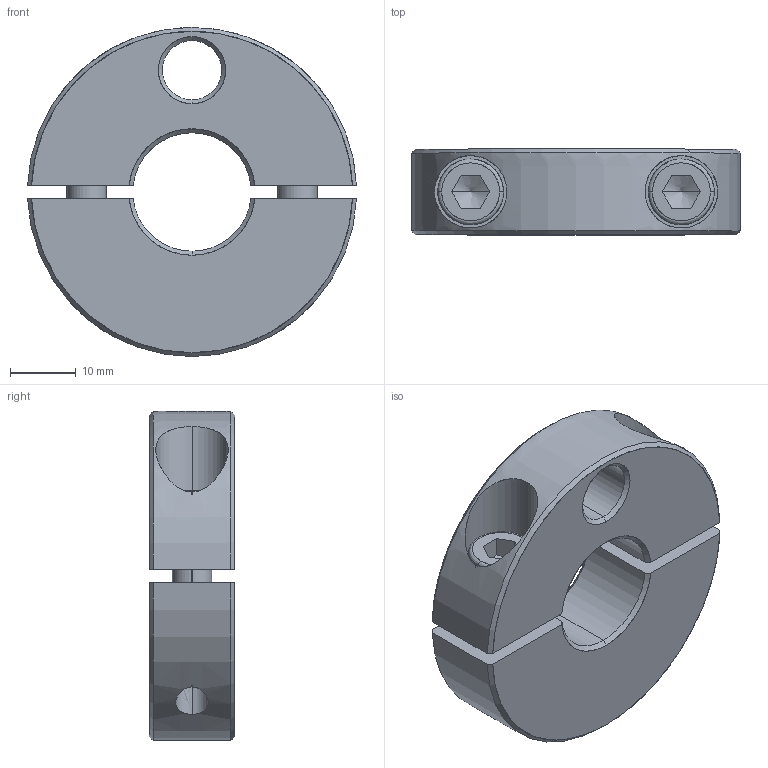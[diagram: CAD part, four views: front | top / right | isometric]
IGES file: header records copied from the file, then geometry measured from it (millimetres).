
Start section: SolidWorks IGES FILE using analytic representation for surfaces
Global section: file name: C:\WIX2\Positioning\3865\3865W118.igs; native system: SolidWorks 2003 by SolidWorks Corporation; preprocessor: Version 5.3; author: Joan; date: 030722.172958; units: millimetre
Bounding box: 49.96 x 13 x 50 mm (x, y, z)
Surface area: 9738.8 mm2 (no closed solid volume)
Topology: 0 solids, 0 shells, 99 faces, 1615 edges, 1611 vertices
Faces by surface type: revolution 65, bspline 34
